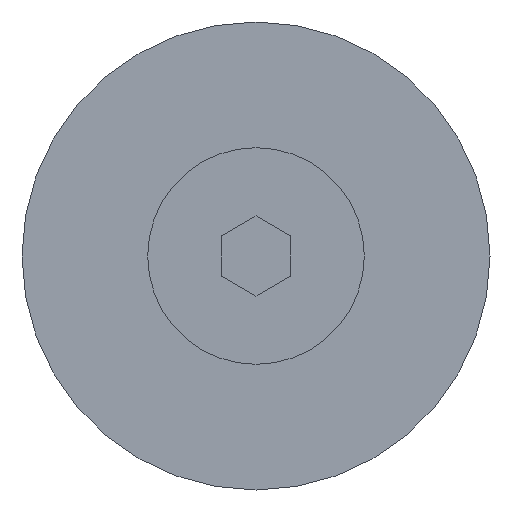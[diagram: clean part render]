
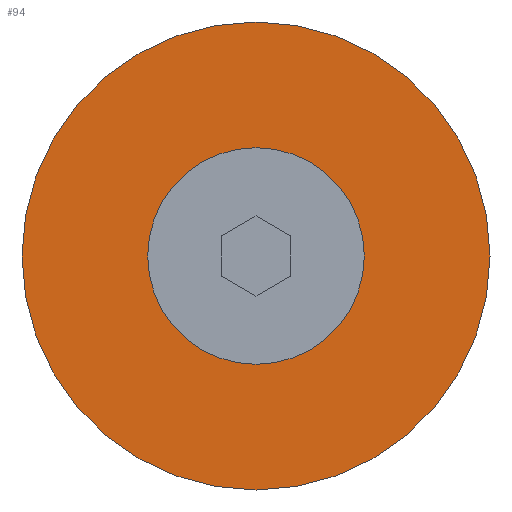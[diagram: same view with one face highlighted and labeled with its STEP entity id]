
A CAD part, front view. The second image highlights one B-rep face of the part: STEP entity #94.
In plain terms, the highlighted planar face has unit normal (0, -1, 0).
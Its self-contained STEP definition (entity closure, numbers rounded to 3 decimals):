
#94=ADVANCED_FACE('',(#146,#147),#148,.F.);
#146=FACE_OUTER_BOUND('',#210,.T.);
#147=FACE_BOUND('',#211,.T.);
#148=PLANE('',#212);
#210=EDGE_LOOP('',(#373,#374));
#211=EDGE_LOOP('',(#375,#376));
#212=AXIS2_PLACEMENT_3D('',#377,#378,#379);
#373=ORIENTED_EDGE('',*,*,#495,.T.);
#374=ORIENTED_EDGE('',*,*,#497,.T.);
#375=ORIENTED_EDGE('',*,*,#498,.F.);
#376=ORIENTED_EDGE('',*,*,#499,.F.);
#377=CARTESIAN_POINT('',(-27.,-14.0,0.0));
#378=DIRECTION('',(-0.0,1.0,0.0));
#379=DIRECTION('',(1.0,0.0,0.0));
#495=EDGE_CURVE('',#586,#584,#587,.T.);
#497=EDGE_CURVE('',#584,#586,#589,.T.);
#498=EDGE_CURVE('',#590,#591,#592,.T.);
#499=EDGE_CURVE('',#591,#590,#593,.T.);
#584=VERTEX_POINT('',#718);
#586=VERTEX_POINT('',#721);
#587=CIRCLE('',#722,27.0);
#589=CIRCLE('',#725,27.0);
#590=VERTEX_POINT('',#726);
#591=VERTEX_POINT('',#727);
#592=CIRCLE('',#728,12.5);
#593=CIRCLE('',#729,12.5);
#718=CARTESIAN_POINT('',(0.,-14.0,27.0));
#721=CARTESIAN_POINT('',(0.,-14.0,-27.0));
#722=AXIS2_PLACEMENT_3D('',#849,#850,#851);
#725=AXIS2_PLACEMENT_3D('',#853,#854,#855);
#726=CARTESIAN_POINT('',(0.,-14.0,-12.5));
#727=CARTESIAN_POINT('',(0.,-14.0,12.5));
#728=AXIS2_PLACEMENT_3D('',#856,#857,#858);
#729=AXIS2_PLACEMENT_3D('',#859,#860,#861);
#849=CARTESIAN_POINT('',(0.,-14.0,0.0));
#850=DIRECTION('',(0.0,-1.0,0.0));
#851=DIRECTION('',(0.0,0.0,-1.0));
#853=CARTESIAN_POINT('',(0.,-14.0,0.0));
#854=DIRECTION('',(0.0,-1.0,0.0));
#855=DIRECTION('',(0.0,0.0,-1.0));
#856=CARTESIAN_POINT('',(0.,-14.0,0.0));
#857=DIRECTION('',(0.0,-1.0,0.0));
#858=DIRECTION('',(0.0,0.0,-1.0));
#859=CARTESIAN_POINT('',(0.,-14.0,0.0));
#860=DIRECTION('',(0.0,-1.0,0.0));
#861=DIRECTION('',(0.0,0.0,-1.0));
